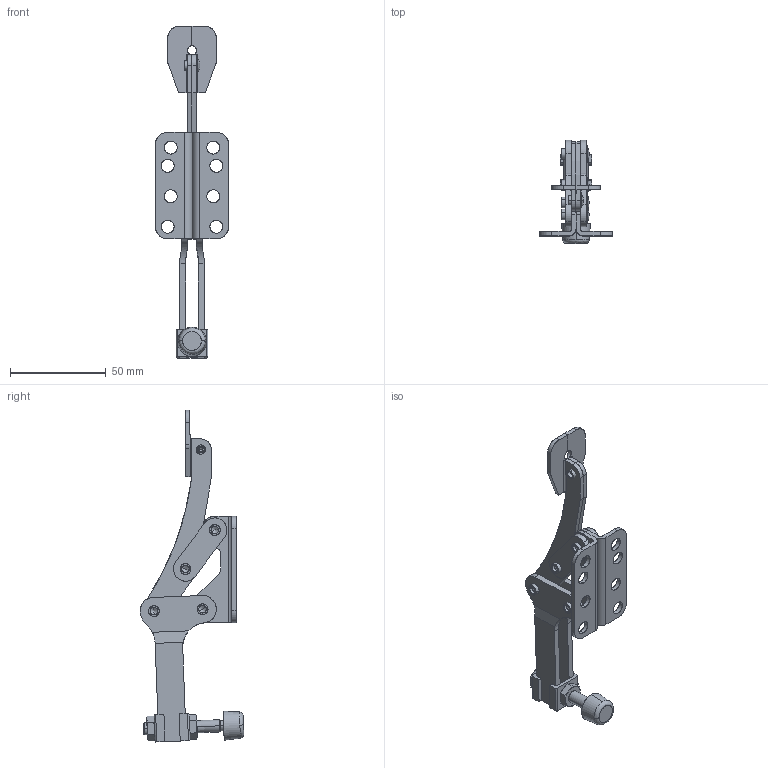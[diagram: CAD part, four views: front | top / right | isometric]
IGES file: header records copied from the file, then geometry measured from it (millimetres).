
Start section: SolidWorks IGES file using analytic representation for surfaces
Global section: file name: C:\lapeer-mfg\H-400\iges\H-400.IGS; native system: SolidWorks 2005 by SolidWorks Corporation; preprocessor: SolidWorks 2005 by SolidWorks Corporation; author: rtaylor; date: 050206.081725; units: inch
Bounding box: 38.1 x 53.96 x 173.13 mm (x, y, z)
Surface area: 30597 mm2 (no closed solid volume)
Topology: 0 solids, 0 shells, 397 faces, 6020 edges, 6010 vertices
Faces by surface type: revolution 208, bspline 189
